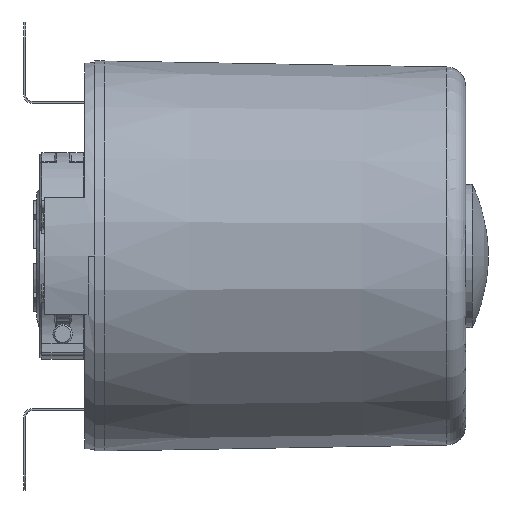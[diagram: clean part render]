
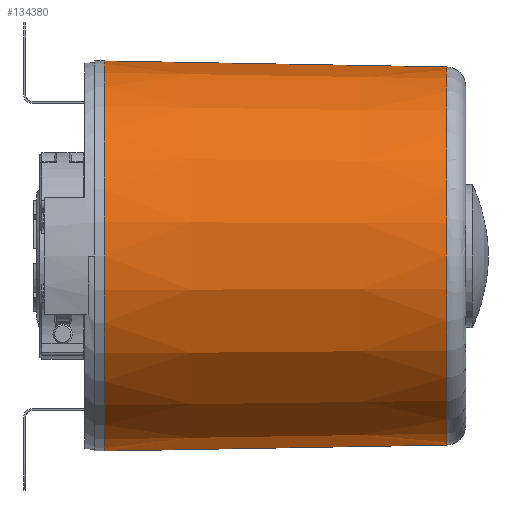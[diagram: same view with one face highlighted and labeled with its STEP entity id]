
A CAD part, front view. The second image highlights one B-rep face of the part: STEP entity #134380.
In plain terms, the highlighted conical face has half-angle 1 degrees and reference radius 29.541 mm.
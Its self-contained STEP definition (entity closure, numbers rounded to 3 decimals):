
#123807=CARTESIAN_POINT('',(2.5,0.,0.));
#123808=DIRECTION('',(1.,0.,0.));
#123809=DIRECTION('',(0.,0.,1.));
#123810=AXIS2_PLACEMENT_3D('',#123807,#123808,#123809);
#123816=DIRECTION('',(1.,0.,-0.017));
#123817=VECTOR('',#123816,52.66);
#123818=CARTESIAN_POINT('',(2.5,0.,30.));
#123819=LINE('',#123818,#123817);
#123848=CARTESIAN_POINT('',(55.152,0.,0.));
#123849=DIRECTION('',(-1.,0.,0.));
#123850=DIRECTION('',(0.,0.,-1.));
#123851=AXIS2_PLACEMENT_3D('',#123848,#123849,#123850);
#130482=DIRECTION('',(1.,0.,0.017));
#130483=VECTOR('',#130482,52.66);
#130484=CARTESIAN_POINT('',(2.5,0.,-30.));
#130485=LINE('',#130484,#130483);
#134218=CARTESIAN_POINT('',(2.5,0.,-30.));
#134219=VERTEX_POINT('',#134218);
#134220=CARTESIAN_POINT('',(2.5,0.,30.));
#134221=VERTEX_POINT('',#134220);
#134223=CARTESIAN_POINT('',(55.152,0.,-29.081));
#134225=VERTEX_POINT('',#134223);
#134227=CARTESIAN_POINT('',(55.152,0.,29.081));
#134229=VERTEX_POINT('',#134227);
#134366=CARTESIAN_POINT('',(28.826,0.,0.));
#134367=DIRECTION('',(-1.,0.,0.));
#134368=DIRECTION('',(0.,0.,-1.));
#134369=AXIS2_PLACEMENT_3D('',#134366,#134367,#134368);
#134370=CONICAL_SURFACE('',#134369,29.54,1.);
#134372=ORIENTED_EDGE('',*,*,#134371,.F.);
#134374=ORIENTED_EDGE('',*,*,#134373,.F.);
#134375=ORIENTED_EDGE('',*,*,#134351,.F.);
#134377=ORIENTED_EDGE('',*,*,#134376,.T.);
#134378=EDGE_LOOP('',(#134372,#134374,#134375,#134377));
#134379=FACE_OUTER_BOUND('',#134378,.F.);
#134380=ADVANCED_FACE('',(#134379),#134370,.T.);
#123811=CIRCLE('',#123810,30.);
#123852=CIRCLE('',#123851,29.081);
#134351=EDGE_CURVE('',#134221,#134219,#123811,.T.);
#134371=EDGE_CURVE('',#134225,#134229,#123852,.T.);
#134373=EDGE_CURVE('',#134219,#134225,#130485,.T.);
#134376=EDGE_CURVE('',#134221,#134229,#123819,.T.);
